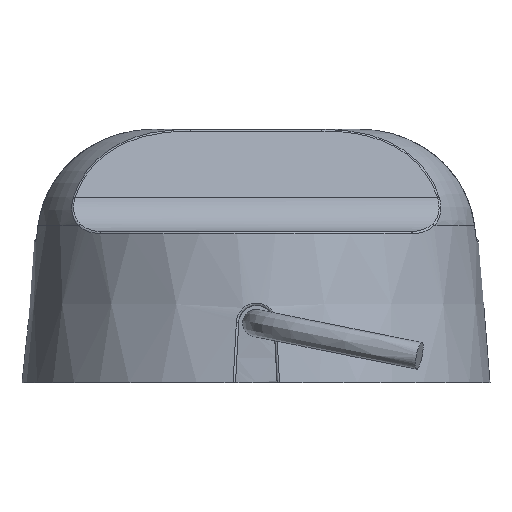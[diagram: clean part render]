
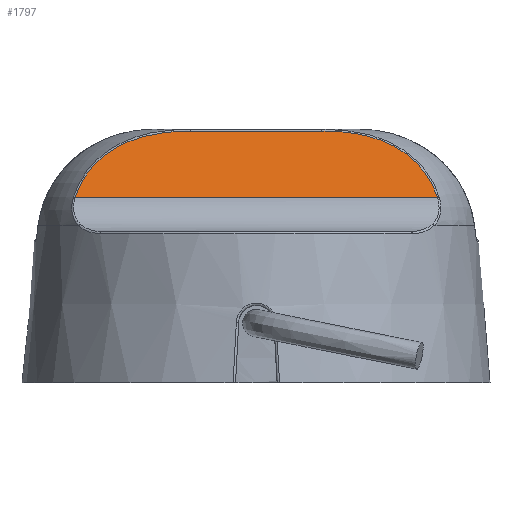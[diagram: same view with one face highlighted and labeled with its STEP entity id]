
A CAD part, front view. The second image highlights one B-rep face of the part: STEP entity #1797.
In plain terms, the highlighted planar face has unit normal (0, -0.974, 0.225).
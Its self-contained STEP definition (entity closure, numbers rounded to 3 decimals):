
#165=B_SPLINE_CURVE_WITH_KNOTS('',3,(#3285,#3286,#3287,#3288,#3289,#3290,
#3291,#3292,#3293),.UNSPECIFIED.,.F.,.F.,(4,1,1,1,1,1,4),(0.,
0.008,0.016,0.02,0.024,
0.028,0.033),.UNSPECIFIED.);
#166=B_SPLINE_CURVE_WITH_KNOTS('',3,(#3297,#3298,#3299,#3300,#3301,#3302,
#3303,#3304,#3305,#3306,#3307),.UNSPECIFIED.,.F.,.F.,(4,1,1,1,1,1,1,1,4),
(0.,0.004,0.008,0.01,0.012,
0.017,0.021,0.025,0.033),
 .UNSPECIFIED.);
#278=ORIENTED_EDGE('',*,*,#663,.T.);
#279=ORIENTED_EDGE('',*,*,#664,.T.);
#280=ORIENTED_EDGE('',*,*,#665,.F.);
#281=ORIENTED_EDGE('',*,*,#666,.T.);
#663=EDGE_CURVE('',#855,#856,#954,.T.);
#664=EDGE_CURVE('',#856,#857,#165,.T.);
#665=EDGE_CURVE('',#858,#857,#955,.T.);
#666=EDGE_CURVE('',#858,#855,#166,.T.);
#855=VERTEX_POINT('',#3283);
#856=VERTEX_POINT('',#3284);
#857=VERTEX_POINT('',#3294);
#858=VERTEX_POINT('',#3296);
#954=LINE('',#3282,#980);
#955=LINE('',#3295,#981);
#980=VECTOR('',#2029,1000.);
#981=VECTOR('',#2030,1000.);
#1008=EDGE_LOOP('',(#278,#279,#280,#281));
#1099=FACE_BOUND('',#1008,.T.);
#1186=PLANE('',#1889);
#1797=ADVANCED_FACE('',(#1099),#1186,.F.);
#1889=AXIS2_PLACEMENT_3D('',#3281,#2027,#2028);
#2027=DIRECTION('',(0.,0.974,-0.225));
#2028=DIRECTION('',(0.,0.225,0.974));
#2029=DIRECTION('',(-1.,0.,0.));
#2030=DIRECTION('',(-1.,0.,0.));
#3281=CARTESIAN_POINT('',(261.6,-22.,64.5));
#3282=CARTESIAN_POINT('',(261.6,-22.089,64.112));
#3283=CARTESIAN_POINT('',(14.885,-22.089,64.112));
#3284=CARTESIAN_POINT('',(-14.885,-22.089,64.112));
#3285=CARTESIAN_POINT('',(-14.885,-22.089,64.112));
#3286=CARTESIAN_POINT('',(-17.624,-22.089,64.112));
#3287=CARTESIAN_POINT('',(-23.046,-22.16,63.805));
#3288=CARTESIAN_POINT('',(-29.655,-22.628,61.778));
#3289=CARTESIAN_POINT('',(-34.316,-23.3,58.87));
#3290=CARTESIAN_POINT('',(-37.289,-23.935,56.118));
#3291=CARTESIAN_POINT('',(-39.666,-24.704,52.787));
#3292=CARTESIAN_POINT('',(-40.722,-25.269,50.341));
#3293=CARTESIAN_POINT('',(-41.122,-25.567,49.05));
#3294=CARTESIAN_POINT('',(-41.122,-25.567,49.05));
#3295=CARTESIAN_POINT('',(42.158,-25.567,49.05));
#3296=CARTESIAN_POINT('',(41.122,-25.567,49.05));
#3297=CARTESIAN_POINT('',(41.122,-25.567,49.05));
#3298=CARTESIAN_POINT('',(40.722,-25.268,50.343));
#3299=CARTESIAN_POINT('',(39.645,-24.695,52.828));
#3300=CARTESIAN_POINT('',(37.666,-24.058,55.586));
#3301=CARTESIAN_POINT('',(35.79,-23.615,57.504));
#3302=CARTESIAN_POINT('',(33.691,-23.208,59.265));
#3303=CARTESIAN_POINT('',(30.807,-22.795,61.055));
#3304=CARTESIAN_POINT('',(26.968,-22.437,62.607));
#3305=CARTESIAN_POINT('',(21.687,-22.144,63.876));
#3306=CARTESIAN_POINT('',(17.622,-22.089,64.112));
#3307=CARTESIAN_POINT('',(14.885,-22.089,64.112));
